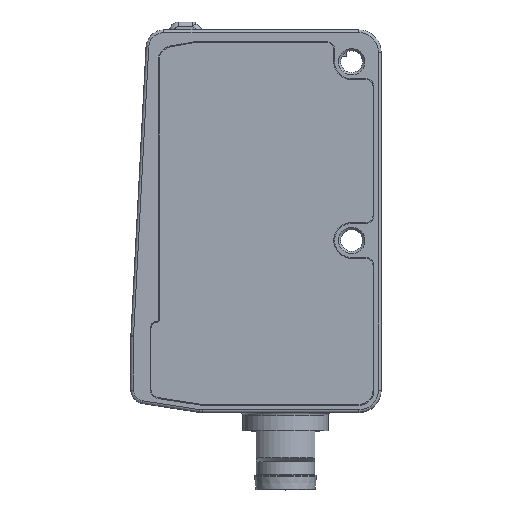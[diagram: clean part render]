
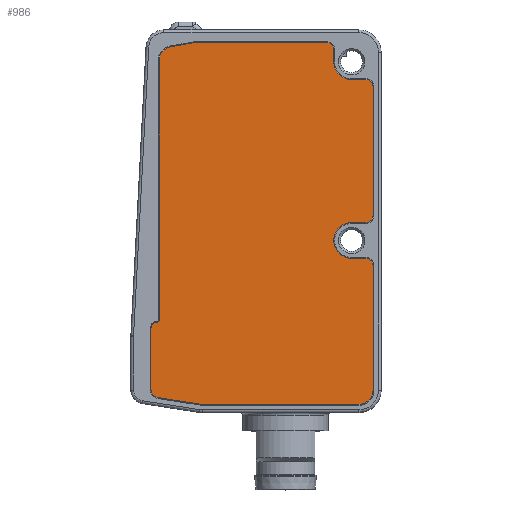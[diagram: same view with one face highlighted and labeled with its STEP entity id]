
A CAD part, top view. The second image highlights one B-rep face of the part: STEP entity #986.
In plain terms, the highlighted planar face has unit normal (0, 0, 1).
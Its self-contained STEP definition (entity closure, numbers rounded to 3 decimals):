
#986=ADVANCED_FACE('',(#1304),#1151,.T.);
#1151=PLANE('',#4815);
#1304=FACE_OUTER_BOUND('',#1551,.T.);
#1551=EDGE_LOOP('',(#2571,#2572,#2573,#2574,#2575,#2576,#2577,#2578,#2579,
#2580,#2581,#2582,#2583,#2584,#2585,#2586,#2587,#2588,#2589,#2590,#2591,
#2592,#2593,#2594,#2595));
#1852=CIRCLE('',#4782,2.);
#1853=CIRCLE('',#4787,2.);
#1854=CIRCLE('',#4793,0.8);
#1855=CIRCLE('',#4795,0.8);
#1856=CIRCLE('',#4797,0.8);
#1857=CIRCLE('',#4799,0.8);
#1858=CIRCLE('',#4801,1.6);
#1859=CIRCLE('',#4803,1.);
#1860=CIRCLE('',#4805,1.6);
#1861=CIRCLE('',#4807,1.6);
#1862=CIRCLE('',#4809,0.2);
#1863=CIRCLE('',#4811,0.7);
#1864=CIRCLE('',#4813,1.);
#2571=ORIENTED_EDGE('',*,*,#3737,.F.);
#2572=ORIENTED_EDGE('',*,*,#3785,.T.);
#2573=ORIENTED_EDGE('',*,*,#3772,.F.);
#2574=ORIENTED_EDGE('',*,*,#3781,.T.);
#2575=ORIENTED_EDGE('',*,*,#3769,.F.);
#2576=ORIENTED_EDGE('',*,*,#3778,.T.);
#2577=ORIENTED_EDGE('',*,*,#3766,.F.);
#2578=ORIENTED_EDGE('',*,*,#3777,.T.);
#2579=ORIENTED_EDGE('',*,*,#3763,.F.);
#2580=ORIENTED_EDGE('',*,*,#3762,.F.);
#2581=ORIENTED_EDGE('',*,*,#3759,.F.);
#2582=ORIENTED_EDGE('',*,*,#3776,.T.);
#2583=ORIENTED_EDGE('',*,*,#3756,.F.);
#2584=ORIENTED_EDGE('',*,*,#3775,.T.);
#2585=ORIENTED_EDGE('',*,*,#3753,.F.);
#2586=ORIENTED_EDGE('',*,*,#3752,.F.);
#2587=ORIENTED_EDGE('',*,*,#3749,.F.);
#2588=ORIENTED_EDGE('',*,*,#3774,.T.);
#2589=ORIENTED_EDGE('',*,*,#3746,.F.);
#2590=ORIENTED_EDGE('',*,*,#3779,.T.);
#2591=ORIENTED_EDGE('',*,*,#3743,.F.);
#2592=ORIENTED_EDGE('',*,*,#3780,.T.);
#2593=ORIENTED_EDGE('',*,*,#3740,.F.);
#2594=ORIENTED_EDGE('',*,*,#3783,.T.);
#2595=ORIENTED_EDGE('',*,*,#3784,.T.);
#3275=VERTEX_POINT('',#7085);
#3276=VERTEX_POINT('',#7087);
#3277=VERTEX_POINT('',#7091);
#3278=VERTEX_POINT('',#7093);
#3279=VERTEX_POINT('',#7097);
#3280=VERTEX_POINT('',#7099);
#3281=VERTEX_POINT('',#7103);
#3282=VERTEX_POINT('',#7105);
#3283=VERTEX_POINT('',#7109);
#3284=VERTEX_POINT('',#7111);
#3285=VERTEX_POINT('',#7115);
#3286=VERTEX_POINT('',#7119);
#3287=VERTEX_POINT('',#7123);
#3288=VERTEX_POINT('',#7125);
#3289=VERTEX_POINT('',#7129);
#3290=VERTEX_POINT('',#7131);
#3291=VERTEX_POINT('',#7135);
#3292=VERTEX_POINT('',#7139);
#3293=VERTEX_POINT('',#7143);
#3294=VERTEX_POINT('',#7145);
#3295=VERTEX_POINT('',#7149);
#3296=VERTEX_POINT('',#7151);
#3297=VERTEX_POINT('',#7155);
#3298=VERTEX_POINT('',#7157);
#3299=VERTEX_POINT('',#7177);
#3737=EDGE_CURVE('',#3275,#3276,#4135,.T.);
#3740=EDGE_CURVE('',#3277,#3278,#4138,.T.);
#3743=EDGE_CURVE('',#3279,#3280,#4141,.T.);
#3746=EDGE_CURVE('',#3281,#3282,#4144,.T.);
#3749=EDGE_CURVE('',#3283,#3284,#4147,.T.);
#3752=EDGE_CURVE('',#3284,#3285,#1852,.T.);
#3753=EDGE_CURVE('',#3285,#3286,#4150,.T.);
#3756=EDGE_CURVE('',#3287,#3288,#4153,.T.);
#3759=EDGE_CURVE('',#3289,#3290,#4156,.T.);
#3762=EDGE_CURVE('',#3290,#3291,#1853,.T.);
#3763=EDGE_CURVE('',#3291,#3292,#4159,.T.);
#3766=EDGE_CURVE('',#3293,#3294,#4162,.T.);
#3769=EDGE_CURVE('',#3295,#3296,#4165,.T.);
#3772=EDGE_CURVE('',#3297,#3298,#4168,.T.);
#3774=EDGE_CURVE('',#3283,#3282,#1854,.T.);
#3775=EDGE_CURVE('',#3287,#3286,#1855,.T.);
#3776=EDGE_CURVE('',#3289,#3288,#1856,.T.);
#3777=EDGE_CURVE('',#3293,#3292,#1857,.T.);
#3778=EDGE_CURVE('',#3295,#3294,#1858,.T.);
#3779=EDGE_CURVE('',#3281,#3280,#1859,.T.);
#3780=EDGE_CURVE('',#3279,#3278,#1860,.T.);
#3781=EDGE_CURVE('',#3297,#3296,#1861,.T.);
#3783=EDGE_CURVE('',#3277,#3299,#1862,.T.);
#3784=EDGE_CURVE('',#3299,#3276,#1863,.T.);
#3785=EDGE_CURVE('',#3275,#3298,#1864,.T.);
#4135=LINE('',#7086,#4400);
#4138=LINE('',#7092,#4403);
#4141=LINE('',#7098,#4406);
#4144=LINE('',#7104,#4409);
#4147=LINE('',#7110,#4412);
#4150=LINE('',#7118,#4415);
#4153=LINE('',#7124,#4418);
#4156=LINE('',#7130,#4421);
#4159=LINE('',#7138,#4424);
#4162=LINE('',#7144,#4427);
#4165=LINE('',#7150,#4430);
#4168=LINE('',#7156,#4433);
#4400=VECTOR('',#5600,1.);
#4403=VECTOR('',#5605,1.);
#4406=VECTOR('',#5610,1.);
#4409=VECTOR('',#5615,1.);
#4412=VECTOR('',#5620,1.);
#4415=VECTOR('',#5629,1.);
#4418=VECTOR('',#5634,1.);
#4421=VECTOR('',#5639,1.);
#4424=VECTOR('',#5648,1.);
#4427=VECTOR('',#5653,1.);
#4430=VECTOR('',#5658,1.);
#4433=VECTOR('',#5663,1.);
#4782=AXIS2_PLACEMENT_3D('',#7116,#5625,#5626);
#4787=AXIS2_PLACEMENT_3D('',#7136,#5644,#5645);
#4793=AXIS2_PLACEMENT_3D('',#7160,#5667,#5668);
#4795=AXIS2_PLACEMENT_3D('',#7162,#5671,#5672);
#4797=AXIS2_PLACEMENT_3D('',#7164,#5675,#5676);
#4799=AXIS2_PLACEMENT_3D('',#7166,#5679,#5680);
#4801=AXIS2_PLACEMENT_3D('',#7168,#5683,#5684);
#4803=AXIS2_PLACEMENT_3D('',#7170,#5687,#5688);
#4805=AXIS2_PLACEMENT_3D('',#7172,#5691,#5692);
#4807=AXIS2_PLACEMENT_3D('',#7174,#5695,#5696);
#4809=AXIS2_PLACEMENT_3D('',#7178,#5700,#5701);
#4811=AXIS2_PLACEMENT_3D('',#7180,#5704,#5705);
#4813=AXIS2_PLACEMENT_3D('',#7182,#5708,#5709);
#4815=AXIS2_PLACEMENT_3D('',#7184,#5712,#5713);
#5600=DIRECTION('',(0.,1.,0.));
#5605=DIRECTION('',(0.,1.,0.));
#5610=DIRECTION('',(0.985,0.174,0.));
#5615=DIRECTION('',(1.,0.,0.));
#5620=DIRECTION('',(0.,-1.,0.));
#5625=DIRECTION('',(0.,0.,1.));
#5626=DIRECTION('',(1.,0.,0.));
#5629=DIRECTION('',(1.,0.,0.));
#5634=DIRECTION('',(0.,-1.,0.));
#5639=DIRECTION('',(-1.,0.,0.));
#5644=DIRECTION('',(0.,0.,1.));
#5645=DIRECTION('',(1.,0.,0.));
#5648=DIRECTION('',(1.,0.,0.));
#5653=DIRECTION('',(0.,-1.,0.));
#5658=DIRECTION('',(-1.,0.,0.));
#5663=DIRECTION('',(-0.988,0.153,0.));
#5667=DIRECTION('',(0.,0.,1.));
#5668=DIRECTION('',(1.,0.,0.));
#5671=DIRECTION('',(0.,0.,1.));
#5672=DIRECTION('',(1.,0.,0.));
#5675=DIRECTION('',(0.,0.,1.));
#5676=DIRECTION('',(1.,0.,0.));
#5679=DIRECTION('',(0.,0.,1.));
#5680=DIRECTION('',(1.,0.,0.));
#5683=DIRECTION('',(0.,0.,1.));
#5684=DIRECTION('',(1.,0.,0.));
#5687=DIRECTION('',(0.,0.,1.));
#5688=DIRECTION('',(1.,0.,0.));
#5691=DIRECTION('',(0.,0.,1.));
#5692=DIRECTION('',(1.,0.,0.));
#5695=DIRECTION('',(0.,0.,1.));
#5696=DIRECTION('',(1.,0.,0.));
#5700=DIRECTION('',(0.,0.,-1.));
#5701=DIRECTION('',(1.,0.,0.));
#5704=DIRECTION('',(0.,0.,1.));
#5705=DIRECTION('',(1.,0.,0.));
#5708=DIRECTION('',(0.,0.,1.));
#5709=DIRECTION('',(1.,0.,0.));
#5712=DIRECTION('',(0.,0.,1.));
#5713=DIRECTION('',(1.,0.,0.));
#7085=CARTESIAN_POINT('',(-11.75,-18.751,15.));
#7086=CARTESIAN_POINT('',(-11.75,-19.608,15.));
#7087=CARTESIAN_POINT('',(-11.75,-11.991,15.));
#7091=CARTESIAN_POINT('',(-10.85,-11.091,15.));
#7092=CARTESIAN_POINT('',(-10.85,-11.291,15.));
#7093=CARTESIAN_POINT('',(-10.85,17.944,15.));
#7097=CARTESIAN_POINT('',(-9.528,19.519,15.));
#7098=CARTESIAN_POINT('',(-10.85,19.286,15.));
#7099=CARTESIAN_POINT('',(-6.836,19.994,15.));
#7103=CARTESIAN_POINT('',(-6.663,20.009,15.));
#7104=CARTESIAN_POINT('',(-6.75,20.009,15.));
#7105=CARTESIAN_POINT('',(7.9,20.009,15.));
#7109=CARTESIAN_POINT('',(8.7,19.209,15.));
#7110=CARTESIAN_POINT('',(8.7,20.009,15.));
#7111=CARTESIAN_POINT('',(8.7,17.85,15.));
#7115=CARTESIAN_POINT('',(10.7,15.85,15.));
#7116=CARTESIAN_POINT('',(10.7,17.85,15.));
#7118=CARTESIAN_POINT('',(10.7,15.85,15.));
#7119=CARTESIAN_POINT('',(12.3,15.85,15.));
#7123=CARTESIAN_POINT('',(13.1,15.05,15.));
#7124=CARTESIAN_POINT('',(13.1,15.85,15.));
#7125=CARTESIAN_POINT('',(13.1,0.65,15.));
#7129=CARTESIAN_POINT('',(12.3,-0.15,15.));
#7130=CARTESIAN_POINT('',(13.1,-0.15,15.));
#7131=CARTESIAN_POINT('',(10.7,-0.15,15.));
#7135=CARTESIAN_POINT('',(10.7,-4.15,15.));
#7136=CARTESIAN_POINT('',(10.7,-2.15,15.));
#7138=CARTESIAN_POINT('',(10.7,-4.15,15.));
#7139=CARTESIAN_POINT('',(12.3,-4.15,15.));
#7143=CARTESIAN_POINT('',(13.1,-4.95,15.));
#7144=CARTESIAN_POINT('',(13.1,-4.15,15.));
#7145=CARTESIAN_POINT('',(13.1,-18.891,15.));
#7149=CARTESIAN_POINT('',(11.5,-20.491,15.));
#7150=CARTESIAN_POINT('',(13.1,-20.491,15.));
#7151=CARTESIAN_POINT('',(-5.927,-20.491,15.));
#7155=CARTESIAN_POINT('',(-6.172,-20.472,15.));
#7156=CARTESIAN_POINT('',(-6.05,-20.491,15.));
#7157=CARTESIAN_POINT('',(-10.903,-19.74,15.));
#7160=CARTESIAN_POINT('',(7.9,19.209,15.));
#7162=CARTESIAN_POINT('',(12.3,15.05,15.));
#7164=CARTESIAN_POINT('',(12.3,0.65,15.));
#7166=CARTESIAN_POINT('',(12.3,-4.95,15.));
#7168=CARTESIAN_POINT('',(11.5,-18.891,15.));
#7170=CARTESIAN_POINT('',(-6.663,19.009,15.));
#7172=CARTESIAN_POINT('',(-9.25,17.944,15.));
#7174=CARTESIAN_POINT('',(-5.927,-18.891,15.));
#7177=CARTESIAN_POINT('',(-11.05,-11.291,15.));
#7178=CARTESIAN_POINT('',(-11.05,-11.091,15.));
#7180=CARTESIAN_POINT('',(-11.05,-11.991,15.));
#7182=CARTESIAN_POINT('',(-10.75,-18.751,15.));
#7184=CARTESIAN_POINT('',(10.7,17.85,15.));
